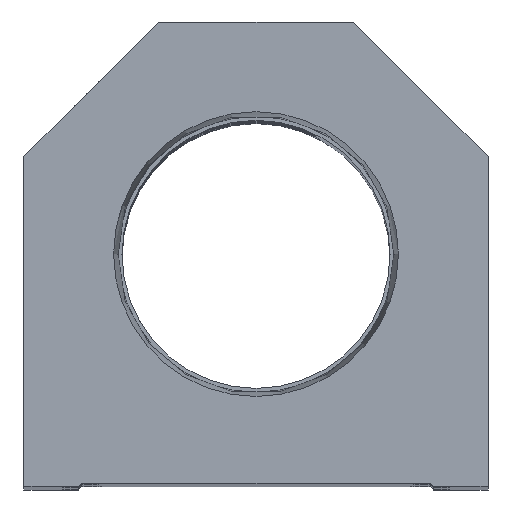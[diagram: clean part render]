
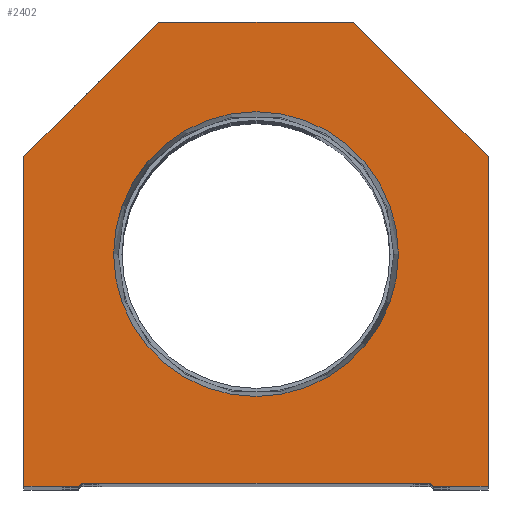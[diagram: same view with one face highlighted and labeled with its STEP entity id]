
A CAD part, top view. The second image highlights one B-rep face of the part: STEP entity #2402.
In plain terms, the highlighted planar face has unit normal (0, 0, 1).
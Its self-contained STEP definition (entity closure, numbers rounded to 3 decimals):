
#42 = EDGE_CURVE ( 'NONE', #15400, #402, #15549, .T. ) ;
#321 = CARTESIAN_POINT ( 'NONE',  ( 14.55, 14.55, 0. ) ) ;
#325 = CARTESIAN_POINT ( 'NONE',  ( -14.55, 14.55, 0. ) ) ;
#402 = VERTEX_POINT ( 'NONE', #13643 ) ;
#451 = VECTOR ( 'NONE', #3245, 1000. ) ;
#462 = EDGE_CURVE ( 'NONE', #19414, #8739, #11681, .T. ) ;
#669 = FACE_BOUND ( 'NONE', #1657, .T. ) ;
#760 = VERTEX_POINT ( 'NONE', #1286 ) ;
#1045 = CARTESIAN_POINT ( 'NONE',  ( 28.6, 0.5, 0. ) ) ;
#1173 = EDGE_LOOP ( 'NONE', ( #4173, #15399, #9854, #10029, #17144, #11390, #19554, #20253, #18474, #3409 ) ) ;
#1286 = CARTESIAN_POINT ( 'NONE',  ( 29.1, 0., 0. ) ) ;
#1657 = EDGE_LOOP ( 'NONE', ( #22808, #7638 ) ) ;
#2139 = VERTEX_POINT ( 'NONE', #1045 ) ;
#2402 = ADVANCED_FACE ( 'NONE', ( #669, #7894 ), #22518, .T. ) ;
#2510 = CARTESIAN_POINT ( 'NONE',  ( -38.1, 54.1, 0. ) ) ;
#2696 = CARTESIAN_POINT ( 'NONE',  ( -28.6, 0.5, 0. ) ) ;
#2738 = DIRECTION ( 'NONE',  ( -0.707, 0.707, 0. ) ) ;
#3003 = VECTOR ( 'NONE', #10736, 1000. ) ;
#3109 = CARTESIAN_POINT ( 'NONE',  ( 38.1, 54.1, 0. ) ) ;
#3245 = DIRECTION ( 'NONE',  ( -1., 0., 0. ) ) ;
#3409 = ORIENTED_EDGE ( 'NONE', *, *, #19437, .T. ) ;
#3416 = LINE ( 'NONE', #321, #3003 ) ;
#3573 = LINE ( 'NONE', #23295, #6272 ) ;
#3777 = VECTOR ( 'NONE', #12974, 1000. ) ;
#3878 = EDGE_CURVE ( 'NONE', #14395, #7137, #8241, .T. ) ;
#4173 = ORIENTED_EDGE ( 'NONE', *, *, #42, .T. ) ;
#4314 = VERTEX_POINT ( 'NONE', #3109 ) ;
#4517 = VECTOR ( 'NONE', #19646, 1000. ) ;
#5300 = VECTOR ( 'NONE', #2738, 1000. ) ;
#5309 = AXIS2_PLACEMENT_3D ( 'NONE', #13572, #20878, #15125 ) ;
#6138 = CARTESIAN_POINT ( 'NONE',  ( 16., 76.2, 0. ) ) ;
#6272 = VECTOR ( 'NONE', #7123, 1000. ) ;
#6520 = CARTESIAN_POINT ( 'NONE',  ( -38.1, 0., 0. ) ) ;
#6536 = DIRECTION ( 'NONE',  ( 0., 0., 1. ) ) ;
#6807 = AXIS2_PLACEMENT_3D ( 'NONE', #8244, #15693, #8125 ) ;
#7123 = DIRECTION ( 'NONE',  ( 0., -1., 0. ) ) ;
#7137 = VERTEX_POINT ( 'NONE', #9915 ) ;
#7538 = VECTOR ( 'NONE', #13692, 1000. ) ;
#7638 = ORIENTED_EDGE ( 'NONE', *, *, #11876, .F. ) ;
#7812 = EDGE_CURVE ( 'NONE', #4314, #14395, #11947, .T. ) ;
#7894 = FACE_OUTER_BOUND ( 'NONE', #1173, .T. ) ;
#8125 = DIRECTION ( 'NONE',  ( 1., 0., 0. ) ) ;
#8241 = LINE ( 'NONE', #21328, #451 ) ;
#8244 = CARTESIAN_POINT ( 'NONE',  ( 0., 38.1, 0. ) ) ;
#8739 = VERTEX_POINT ( 'NONE', #13032 ) ;
#9854 = ORIENTED_EDGE ( 'NONE', *, *, #16602, .T. ) ;
#9915 = CARTESIAN_POINT ( 'NONE',  ( -16., 76.2, 0. ) ) ;
#10029 = ORIENTED_EDGE ( 'NONE', *, *, #17663, .T. ) ;
#10736 = DIRECTION ( 'NONE',  ( 0.707, -0.707, 0. ) ) ;
#11203 = EDGE_CURVE ( 'NONE', #20227, #4314, #15109, .T. ) ;
#11390 = ORIENTED_EDGE ( 'NONE', *, *, #11203, .T. ) ;
#11681 = CIRCLE ( 'NONE', #20741, 23.374 ) ;
#11876 = EDGE_CURVE ( 'NONE', #8739, #19414, #22643, .T. ) ;
#11947 = LINE ( 'NONE', #19181, #5300 ) ;
#12175 = EDGE_CURVE ( 'NONE', #7137, #19725, #13538, .T. ) ;
#12208 = DIRECTION ( 'NONE',  ( 1., 0., 0. ) ) ;
#12974 = DIRECTION ( 'NONE',  ( 0.707, 0.707, 0. ) ) ;
#13032 = CARTESIAN_POINT ( 'NONE',  ( -23.374, 38.1, 0. ) ) ;
#13538 = LINE ( 'NONE', #2510, #20765 ) ;
#13572 = CARTESIAN_POINT ( 'NONE',  ( 0., 0., 0. ) ) ;
#13643 = CARTESIAN_POINT ( 'NONE',  ( -29.1, 0., 0. ) ) ;
#13692 = DIRECTION ( 'NONE',  ( 0., 1., 0. ) ) ;
#13994 = DIRECTION ( 'NONE',  ( 1., 0., 0. ) ) ;
#14395 = VERTEX_POINT ( 'NONE', #6138 ) ;
#15107 = VECTOR ( 'NONE', #12208, 1000. ) ;
#15109 = LINE ( 'NONE', #22294, #7538 ) ;
#15125 = DIRECTION ( 'NONE',  ( 1., 0., 0. ) ) ;
#15323 = CARTESIAN_POINT ( 'NONE',  ( 38.1, 0., 0. ) ) ;
#15399 = ORIENTED_EDGE ( 'NONE', *, *, #18552, .T. ) ;
#15400 = VERTEX_POINT ( 'NONE', #6520 ) ;
#15549 = LINE ( 'NONE', #20947, #15107 ) ;
#15693 = DIRECTION ( 'NONE',  ( 0., 0., 1. ) ) ;
#16602 = EDGE_CURVE ( 'NONE', #22438, #2139, #18915, .T. ) ;
#17144 = ORIENTED_EDGE ( 'NONE', *, *, #17371, .T. ) ;
#17371 = EDGE_CURVE ( 'NONE', #760, #20227, #19304, .T. ) ;
#17592 = DIRECTION ( 'NONE',  ( 1., 0., 0. ) ) ;
#17663 = EDGE_CURVE ( 'NONE', #2139, #760, #3416, .T. ) ;
#17864 = CARTESIAN_POINT ( 'NONE',  ( 28.6, 0., 0. ) ) ;
#17896 = CARTESIAN_POINT ( 'NONE',  ( -28.6, 0.5, 0. ) ) ;
#18181 = CARTESIAN_POINT ( 'NONE',  ( -38.1, 54.1, 0. ) ) ;
#18474 = ORIENTED_EDGE ( 'NONE', *, *, #12175, .T. ) ;
#18552 = EDGE_CURVE ( 'NONE', #402, #22438, #19742, .T. ) ;
#18808 = VECTOR ( 'NONE', #17592, 1000. ) ;
#18915 = LINE ( 'NONE', #2696, #18808 ) ;
#18980 = DIRECTION ( 'NONE',  ( -0.707, -0.707, 0. ) ) ;
#19181 = CARTESIAN_POINT ( 'NONE',  ( 38.1, 54.1, 0. ) ) ;
#19304 = LINE ( 'NONE', #17864, #4517 ) ;
#19414 = VERTEX_POINT ( 'NONE', #19659 ) ;
#19437 = EDGE_CURVE ( 'NONE', #19725, #15400, #3573, .T. ) ;
#19554 = ORIENTED_EDGE ( 'NONE', *, *, #7812, .T. ) ;
#19646 = DIRECTION ( 'NONE',  ( 1., 0., 0. ) ) ;
#19659 = CARTESIAN_POINT ( 'NONE',  ( 23.374, 38.1, 0. ) ) ;
#19725 = VERTEX_POINT ( 'NONE', #18181 ) ;
#19742 = LINE ( 'NONE', #325, #3777 ) ;
#20227 = VERTEX_POINT ( 'NONE', #15323 ) ;
#20253 = ORIENTED_EDGE ( 'NONE', *, *, #3878, .T. ) ;
#20741 = AXIS2_PLACEMENT_3D ( 'NONE', #21396, #6536, #13994 ) ;
#20765 = VECTOR ( 'NONE', #18980, 1000. ) ;
#20878 = DIRECTION ( 'NONE',  ( 0., 0., 1. ) ) ;
#20947 = CARTESIAN_POINT ( 'NONE',  ( -28.6, 0., 0. ) ) ;
#21328 = CARTESIAN_POINT ( 'NONE',  ( 16., 76.2, 0. ) ) ;
#21396 = CARTESIAN_POINT ( 'NONE',  ( 0., 38.1, 0. ) ) ;
#22294 = CARTESIAN_POINT ( 'NONE',  ( 38.1, 0., 0. ) ) ;
#22438 = VERTEX_POINT ( 'NONE', #17896 ) ;
#22518 = PLANE ( 'NONE',  #5309 ) ;
#22643 = CIRCLE ( 'NONE', #6807, 23.374 ) ;
#22808 = ORIENTED_EDGE ( 'NONE', *, *, #462, .F. ) ;
#23295 = CARTESIAN_POINT ( 'NONE',  ( -38.1, 0., 0. ) ) ;
